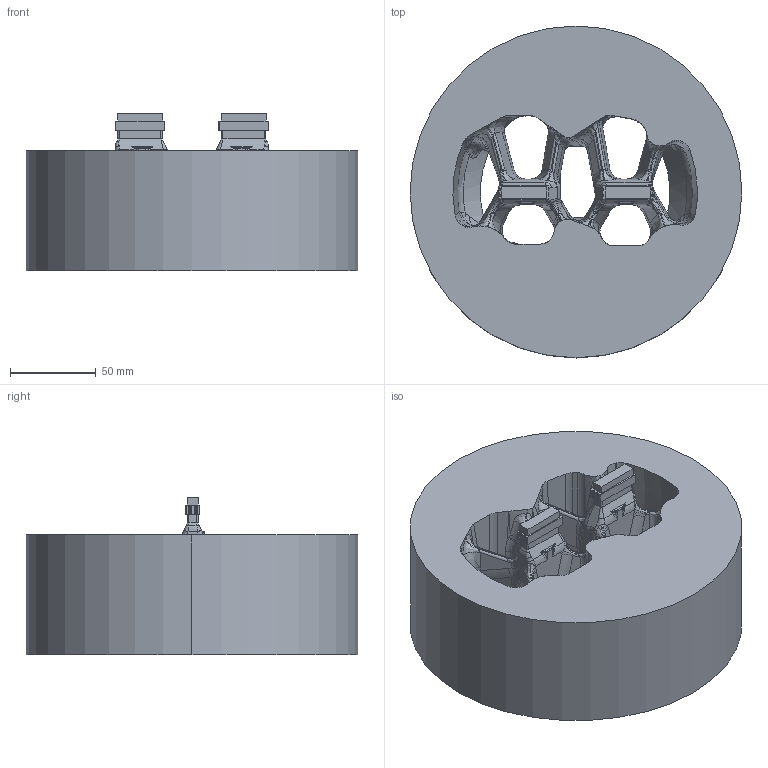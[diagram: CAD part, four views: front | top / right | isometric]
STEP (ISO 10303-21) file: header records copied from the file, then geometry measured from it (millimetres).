
FILE_DESCRIPTION(/* description */ (''),/* implementation_level */ '2;1');
FILE_NAME(/* name */ '8842.stp',/* time_stamp */ '2021-05-06T08:44:28+08:00',/* author */ (''),/* organization */ (''),/* preprocessor_version */ 'ST-DEVELOPER v15',/* originating_system */ 'SIEMENS PLM Software NX 9.0',/* authorisation */ '');
FILE_SCHEMA (('CONFIG_CONTROL_DESIGN'));
Length unit declared in the file: millimetre
Products named in the file (1): 8842
Bounding box: 194 x 194 x 92 mm (x, y, z)
Volume: 1663509.6 mm3; surface area: 140501.8 mm2
Topology: 1 solids, 1 shells, 793 faces, 1943 edges, 1142 vertices
Faces by surface type: bspline 435, cylinder 180, plane 143, torus 25, extrusion 8, cone 2
Entity records: 38994 total; most frequent: CARTESIAN_POINT 24242, ORIENTED_EDGE 3878, EDGE_CURVE 1939, DIRECTION 1899, VERTEX_POINT 1141, B_SPLINE_CURVE_WITH_KNOTS 1016, EDGE_LOOP 798, ADVANCED_FACE 792
